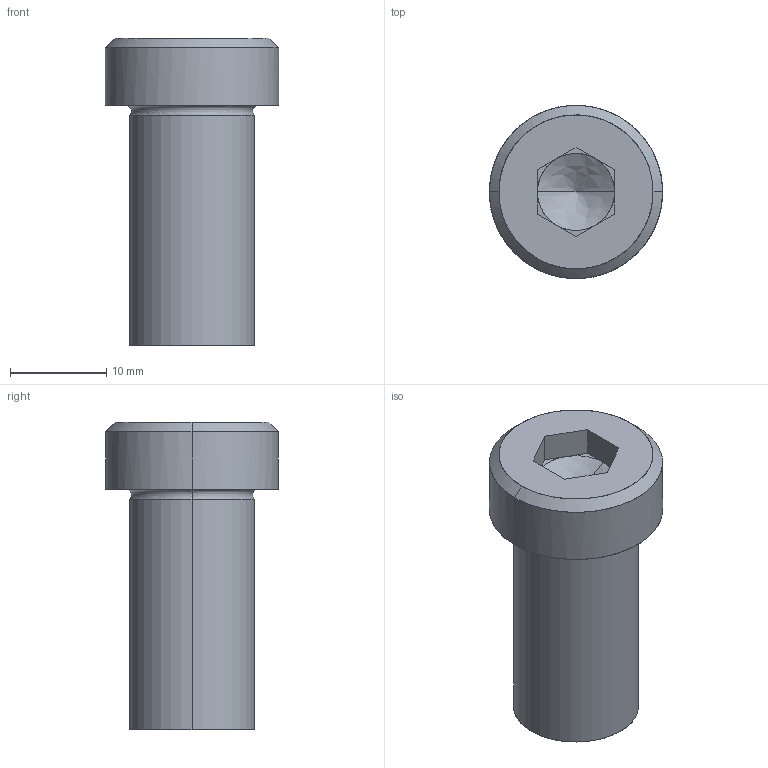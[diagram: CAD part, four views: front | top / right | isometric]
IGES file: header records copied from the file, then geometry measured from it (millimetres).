
Global section: file name: E:\UnigraphicsGraphicData\MISUMI_PRESS-PARTS\IGES\3d_sbtcn13-25_05123_r00.igs; native system: NX V5.0; preprocessor: UGS NX IGES V5.0; author: MISUMI; date: 20110105.162454; units: millimetre
Bounding box: 18 x 18 x 32 mm (x, y, z)
Surface area: 2408.4 mm2 (no closed solid volume)
Topology: 0 solids, 0 shells, 34 faces, 186 edges, 182 vertices
Faces by surface type: bspline 34
